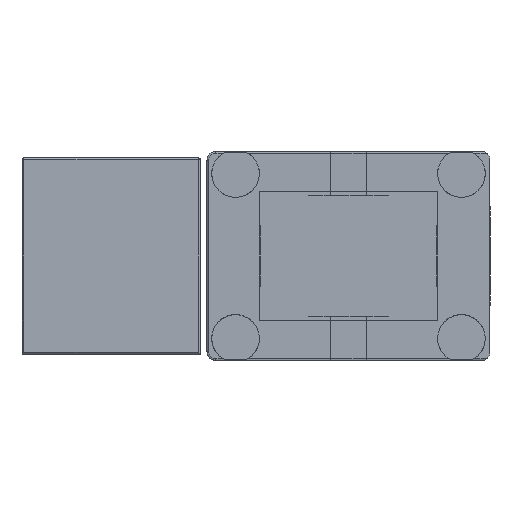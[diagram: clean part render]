
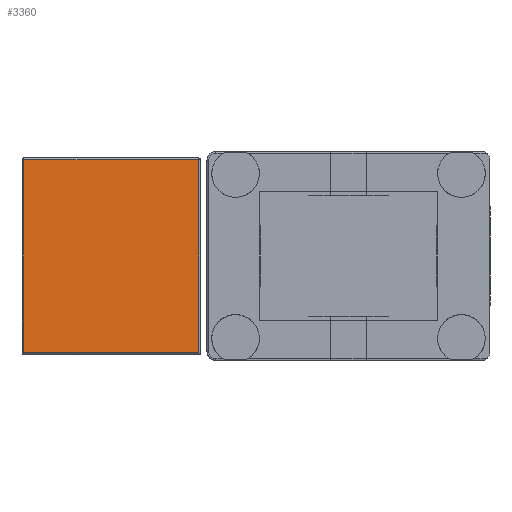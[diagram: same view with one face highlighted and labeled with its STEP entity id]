
A CAD part, left-side view. The second image highlights one B-rep face of the part: STEP entity #3360.
In plain terms, the highlighted planar face has unit normal (-1, 0, 0).
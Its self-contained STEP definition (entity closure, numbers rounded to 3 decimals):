
#119 = EDGE_CURVE ( 'NONE', #3882, #7470, #7895, .T. ) ;
#183 = CARTESIAN_POINT ( 'NONE',  ( -38., 31.95, -10.8 ) ) ;
#285 = DIRECTION ( 'NONE',  ( 0., 0., -1. ) ) ;
#383 = LINE ( 'NONE', #2518, #964 ) ;
#528 = ORIENTED_EDGE ( 'NONE', *, *, #3750, .T. ) ;
#868 = VECTOR ( 'NONE', #285, 1000. ) ;
#964 = VECTOR ( 'NONE', #6176, 1000. ) ;
#1500 = CARTESIAN_POINT ( 'NONE',  ( -38., 51.75, 10.8 ) ) ;
#1541 = CARTESIAN_POINT ( 'NONE',  ( -38., 31.95, 10.8 ) ) ;
#1748 = ORIENTED_EDGE ( 'NONE', *, *, #119, .T. ) ;
#2151 = DIRECTION ( 'NONE',  ( -1., 0., 0. ) ) ;
#2172 = EDGE_LOOP ( 'NONE', ( #7121, #1748, #528, #3468 ) ) ;
#2459 = EDGE_CURVE ( 'NONE', #7495, #3882, #3006, .T. ) ;
#2518 = CARTESIAN_POINT ( 'NONE',  ( -38., 31.95, -10. ) ) ;
#2901 = CARTESIAN_POINT ( 'NONE',  ( -38., 49.75, -10. ) ) ;
#3006 = LINE ( 'NONE', #3869, #868 ) ;
#3340 = CARTESIAN_POINT ( 'NONE',  ( -38., 31.75, -10.8 ) ) ;
#3360 = ADVANCED_FACE ( 'NONE', ( #5432 ), #7851, .T. ) ;
#3468 = ORIENTED_EDGE ( 'NONE', *, *, #3537, .T. ) ;
#3537 = EDGE_CURVE ( 'NONE', #5719, #7495, #4324, .T. ) ;
#3750 = EDGE_CURVE ( 'NONE', #7470, #5719, #383, .T. ) ;
#3869 = CARTESIAN_POINT ( 'NONE',  ( -38., 51.55, -10. ) ) ;
#3882 = VERTEX_POINT ( 'NONE', #7033 ) ;
#3925 = CARTESIAN_POINT ( 'NONE',  ( -38., 51.55, 10.8 ) ) ;
#4324 = LINE ( 'NONE', #1500, #5327 ) ;
#5022 = DIRECTION ( 'NONE',  ( 0., 0., 1. ) ) ;
#5327 = VECTOR ( 'NONE', #6795, 1000. ) ;
#5394 = VECTOR ( 'NONE', #6114, 1000. ) ;
#5432 = FACE_OUTER_BOUND ( 'NONE', #2172, .T. ) ;
#5719 = VERTEX_POINT ( 'NONE', #1541 ) ;
#6114 = DIRECTION ( 'NONE',  ( 0., -1., 0. ) ) ;
#6135 = AXIS2_PLACEMENT_3D ( 'NONE', #2901, #2151, #5022 ) ;
#6176 = DIRECTION ( 'NONE',  ( 0., 0., 1. ) ) ;
#6795 = DIRECTION ( 'NONE',  ( 0., 1., 0. ) ) ;
#7033 = CARTESIAN_POINT ( 'NONE',  ( -38., 51.55, -10.8 ) ) ;
#7121 = ORIENTED_EDGE ( 'NONE', *, *, #2459, .T. ) ;
#7470 = VERTEX_POINT ( 'NONE', #183 ) ;
#7495 = VERTEX_POINT ( 'NONE', #3925 ) ;
#7851 = PLANE ( 'NONE',  #6135 ) ;
#7895 = LINE ( 'NONE', #3340, #5394 ) ;
